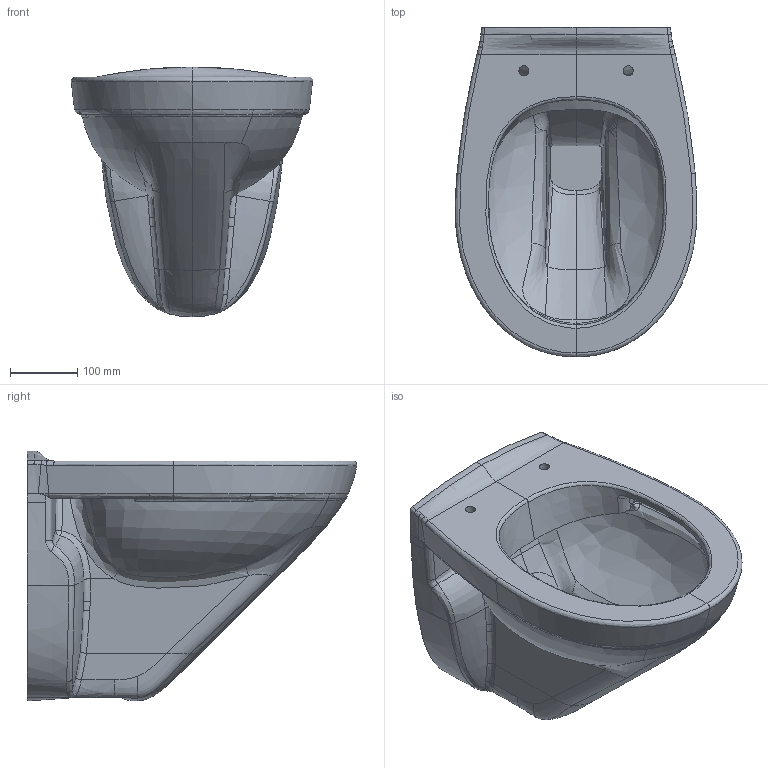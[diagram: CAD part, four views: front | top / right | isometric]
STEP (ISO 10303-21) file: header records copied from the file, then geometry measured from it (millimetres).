
FILE_DESCRIPTION(/* description */ (''),/* implementation_level */ '2;1');
FILE_NAME(/* name */ 'New-Targa_4689R0-WWC-DF-D-Shape-compact.stp',/* time_stamp */ '2021-04-15T09:18:49+02:00',/* author */ (''),/* organization */ (''),/* preprocessor_version */ 'ST-DEVELOPER v16.7',/* originating_system */ 'SIEMENS PLM Software NX 1863',/* authorisation */ '');
FILE_SCHEMA (('AUTOMOTIVE_DESIGN { 1 0 10303 214 3 1 1 1 }'));
Products named in the file (1): koeb337434CElcuj
Bounding box: 358.8 x 490.11 x 371.29 mm (x, y, z)
Volume: 12375882.7 mm3; surface area: 848271.2 mm2
Topology: 1 solids, 1 shells, 274 faces, 743 edges, 461 vertices
Faces by surface type: bspline 262, extrusion 6, plane 2, sphere 2, cylinder 2
Full cylindrical faces by diameter (mm): 15 x2
Entity records: 59268 total; most frequent: CARTESIAN_POINT 54722, ORIENTED_EDGE 1462, EDGE_CURVE 731, B_SPLINE_CURVE_WITH_KNOTS 677, VERTEX_POINT 461, EDGE_LOOP 280, ADVANCED_FACE 274, FACE_OUTER_BOUND 268
